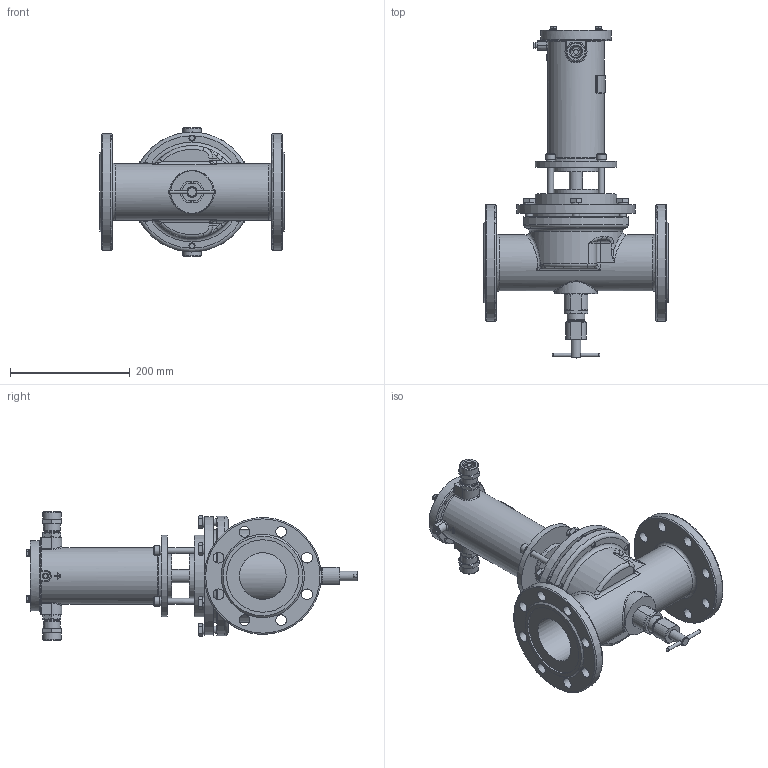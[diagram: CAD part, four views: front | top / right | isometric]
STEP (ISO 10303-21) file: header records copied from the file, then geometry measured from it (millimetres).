
FILE_DESCRIPTION(('STEP AP203'), '1');
FILE_NAME('ÑÅÍÑ-ÏÐ DN80PN25-200Ñ.stp', '2018-10-09T07:58:54', ('Îðëîâ Å.Â.'), ('ÎÎÎ ÍÏÏ Ñåíñîð'), 'ASCON STEP Converter 1.3', 'Kompas 3D', '');
FILE_SCHEMA(('CONFIG_CONTROL_DESIGN','SUPPORT_RESOURCE_SCHEMA'));
Length unit declared in the file: millimetre
Products named in the file (1): 26
Bounding box: 308 x 554.7 x 214 mm (x, y, z)
Volume: 3483876 mm3; surface area: 793653.2 mm2
Topology: 3 solids, 24 shells, 2146 faces, 5658 edges, 3653 vertices
Faces by surface type: cylinder 1048, plane 815, cone 154, bspline 56, torus 49, extrusion 16, sphere 8
Full cylindrical faces by diameter (mm): 3.5 x2, 4.134 x1, 4.917 x4, 5 x1, 6 x9, 6.5 x4, 8 x8, 8.2 x1, 8.376 x4, 9 x1, 10 x5, 10.106 x6, 11 x5, 12 x10, 13 x8, 16 x6, 17 x2, 18 x17, 18.632 x2, 20 x3, 22 x3, 22.376 x2, 23 x1, 23.5 x2, 24 x2, 24.5 x2, 26 x4, 26.376 x2, 27.8 x1, 28 x3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
Entity records: 85373 total; most frequent: CARTESIAN_POINT 31318, DIRECTION 11638, ORIENTED_EDGE 11254, EDGE_CURVE 5627, AXIS2_PLACEMENT_3D 4489, VERTEX_POINT 3653, VECTOR 2660, LINE 2644
